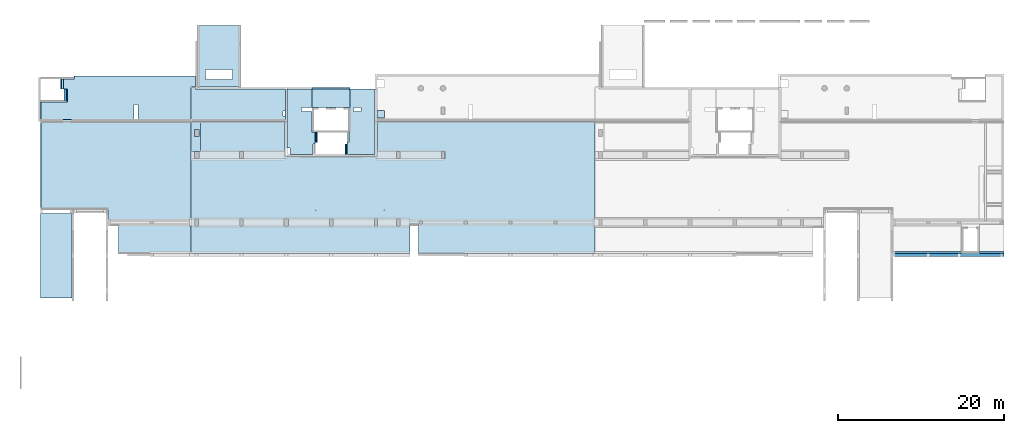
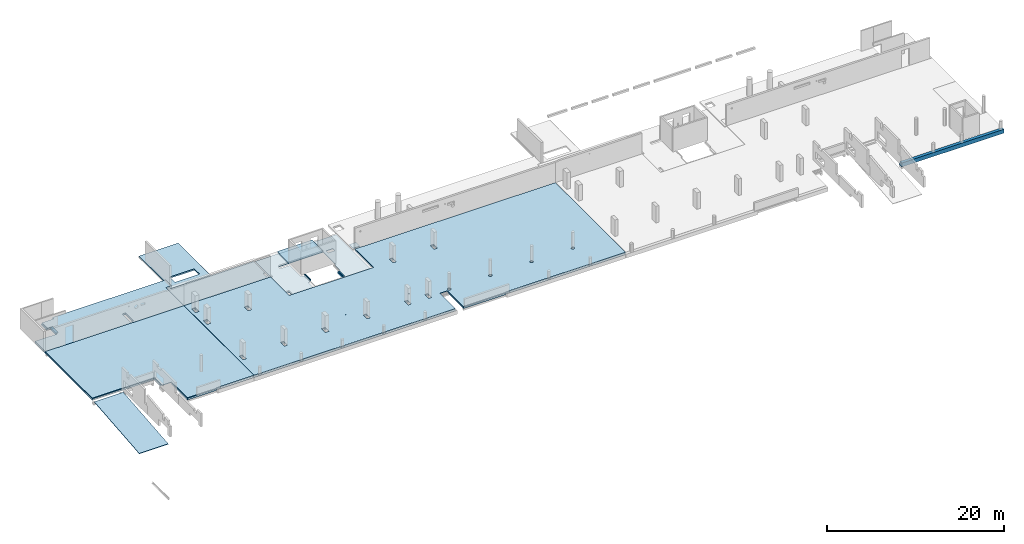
# One storey, part 4 of 10: 22 slabs, 1 beam, 26 openings.
"""IFC2X3 building model written with IfcOpenShell, lengths in millimetres."""

from ifc_helpers import new_model, entity, si_unit, converted_unit, derived_unit, direction, frame, frame_2d, origin, origin_2d_with_axis, place, context, subcontext, project, spatial, polyline, rectangle, circle, outline, extrude, clip, halfspace, faceted_brep, material, layer, layer_set, layer_usage, type_object, element, save


model = new_model("IFC2X3")

# Units and contexts
model_context = context("Model", 3, precision=0.01, world=origin(), true_north=direction((6.12303176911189e-17, 1.0)))
body_context = subcontext(model_context, "Body", "Model", "MODEL_VIEW")
ifc_project = project(units=[si_unit("LENGTHUNIT", "METRE", prefix="MILLI"), si_unit("AREAUNIT", "SQUARE_METRE"), si_unit("VOLUMEUNIT", "CUBIC_METRE"), converted_unit("PLANEANGLEUNIT", "DEGREE", entity("IfcRatioMeasure", 0.0174532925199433), si_unit("PLANEANGLEUNIT", "RADIAN"), dimensions=[0, 0, 0, 0, 0, 0, 0]), si_unit("MASSUNIT", "GRAM", prefix="KILO"), derived_unit("MASSDENSITYUNIT", [(si_unit("MASSUNIT", "GRAM", prefix="KILO"), 1), (si_unit("LENGTHUNIT", "METRE"), -3)]), si_unit("TIMEUNIT", "SECOND"), si_unit("FREQUENCYUNIT", "HERTZ"), si_unit("THERMODYNAMICTEMPERATUREUNIT", "DEGREE_CELSIUS"), derived_unit("THERMALTRANSMITTANCEUNIT", [(si_unit("MASSUNIT", "GRAM", prefix="KILO"), 1), (si_unit("THERMODYNAMICTEMPERATUREUNIT", "KELVIN"), -1), (si_unit("TIMEUNIT", "SECOND"), -3)]), derived_unit("VOLUMETRICFLOWRATEUNIT", [(si_unit("LENGTHUNIT", "METRE"), 3), (si_unit("TIMEUNIT", "SECOND"), -1)]), si_unit("ELECTRICCURRENTUNIT", "AMPERE"), si_unit("ELECTRICVOLTAGEUNIT", "VOLT"), si_unit("POWERUNIT", "WATT"), si_unit("FORCEUNIT", "NEWTON", prefix="KILO"), si_unit("ILLUMINANCEUNIT", "LUX"), si_unit("LUMINOUSFLUXUNIT", "LUMEN"), si_unit("LUMINOUSINTENSITYUNIT", "CANDELA"), derived_unit("USERDEFINED", [(si_unit("MASSUNIT", "GRAM", prefix="KILO"), -1), (si_unit("LENGTHUNIT", "METRE"), -2), (si_unit("TIMEUNIT", "SECOND"), 3), (si_unit("LUMINOUSFLUXUNIT", "LUMEN"), 1)]), derived_unit("LINEARVELOCITYUNIT", [(si_unit("LENGTHUNIT", "METRE"), 1), (si_unit("TIMEUNIT", "SECOND"), -1)]), si_unit("PRESSUREUNIT", "PASCAL"), derived_unit("USERDEFINED", [(si_unit("LENGTHUNIT", "METRE"), -2), (si_unit("MASSUNIT", "GRAM", prefix="KILO"), 1), (si_unit("TIMEUNIT", "SECOND"), -2)])], contexts=[model_context])

# Site, building, storey
site_placement = place(None, origin())
site = spatial("IfcSite", under=ifc_project, at=site_placement, Name="Default", CompositionType="ELEMENT")
building_placement = place(site_placement, origin())
building = spatial("IfcBuilding", under=site, at=building_placement, Name="niet gebruiken", CompositionType="ELEMENT")
storey_placement = place(building_placement, frame((0.0, 0.0, 9410.0)))
storey = spatial("IfcBuildingStorey", under=building, at=storey_placement, Name="02b tweede tussenverdieping", CompositionType="ELEMENT", Elevation=9409.99999999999)

# Beam
ifc_material_1 = material(Name="NLRS_f2_beton prefab")
beam_type = type_object("IfcBeamType", Name="NLRS_28.11_SF_WPB_prefabbeton balk enkele sponning_gen:600x540/200x200", PredefinedType="BEAM")
beam_placement = place(storey_placement, frame((110845.0, 24776.0, -530.0)))
element("IfcBeam", 1, at=beam_placement, inside=storey, type_object=beam_type, material=ifc_material_1, Name="NLRS_28.11_SF_WPB_prefabbeton balk enkele sponning_gen:600x540/200x200", ObjectType="NLRS_28.11_SF_WPB_prefabbeton balk enkele sponning_gen:600x540/200x200", context=body_context, shape_type="Brep", body=[
    faceted_brep([(0.0, 600.0, 0.0), (0.0, 0.0, 0.0), (0.0, 0.0, 540.0), (0.0, 400.0, 540.0), (0.0, 400.0, 530.0), (0.0, 400.0, 460.0), (0.0, 400.0, 200.0), (0.0, 600.0, 200.0), (13355.0, 600.0, 200.0), (13355.0, 400.0, 200.0), (13355.0, 400.0, 460.0), (13355.0, 400.0, 530.0), (13355.0, 400.0, 540.0), (13355.0, 0.0, 540.0), (13355.0, 0.0, 0.0), (13355.0, 600.0, 0.0), (8210.0, 400.0, 200.0), (10400.0, 400.0, 200.0), (10400.0, 400.0, 0.0), (8210.0, 400.0, 0.0), (8210.0, 600.0, 200.0), (8210.0, 600.0, 0.0), (10400.0, 600.0, 0.0), (10400.0, 600.0, 200.0)], [[[0, 1, 2, 3, 4, 5, 6, 7]], [[8, 9, 10, 11, 12, 13, 14, 15]], [[3, 2, 13, 12]], [[16, 6, 5, 4, 3, 12, 11, 10, 9, 17, 18, 19]], [[7, 6, 16, 20]], [[0, 7, 20, 21]], [[1, 0, 21, 19, 18, 22, 15, 14]], [[2, 1, 14, 13]], [[16, 19, 21, 20]], [[18, 17, 23, 22]], [[9, 8, 23, 17]], [[8, 15, 22, 23]]]),
])

# Slabs
ifc_layer_1 = layer(ifc_material_1, 255.0)
ifc_layer_set_1 = layer_set([ifc_layer_1], Name="Floor:NLRS_23.21_FL_kanaalplaat d=255_gen")
ifc_layer_usage_1 = layer_usage(ifc_layer_set_1, "AXIS3", "POSITIVE", 0.0)
slab_1_placement = place(storey_placement, origin())
element("IfcSlab", 2, at=slab_1_placement, inside=storey, material=ifc_layer_usage_1, Name="Floor:NLRS_23.21_FL_kanaalplaat d=255_gen", ObjectType="Floor:NLRS_23.21_FL_kanaalplaat d=255_gen", PredefinedType="FLOOR", context=body_context, shape_type="SweptSolid", body=[
    extrude(outline(polyline([(-2024.99314767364, -11022.4999999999), (8560.00685232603, -11022.4999999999), (8560.00685232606, 7082.49999999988), (-3155.02055697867, 7082.49999999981), (-3155.02055697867, 6862.4999999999), (-3379.99314767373, 6862.4999999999), (-3379.99314767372, -2922.49999999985), (-2024.99314767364, -2922.49999999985), (-2024.99314767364, -11022.4999999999)])), frame((19267.4999999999, 32480.993147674, -70.0), z_axis=(0.0, 0.0, -1.0), x_axis=(0.0, 1.0, 0.0)), (0.0, 0.0, 1.0), 255.000000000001),
])
ifc_layer_usage_2 = layer_usage(ifc_layer_set_1, "AXIS3", "POSITIVE", 0.0)
slab_2_placement = place(storey_placement, origin())
element("IfcSlab", 3, at=slab_2_placement, inside=storey, material=ifc_layer_usage_2, Name="Floor:NLRS_23.21_FL_kanaalplaat d=255_gen", ObjectType="Floor:NLRS_23.21_FL_kanaalplaat d=255_gen", PredefinedType="FLOOR", context=body_context, shape_type="SweptSolid", body=[
    extrude(rectangle(XDim=3240.00000000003, YDim=26329.9999999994, at=frame_2d((2.1600499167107e-12, 0.0), x_axis=(1.0, 0.0))), frame((39535.0, 26816.0, -70.0), z_axis=(0.0, 0.0, -1.0), x_axis=(0.0, 1.0, 0.0)), (0.0, 0.0, 1.0), 255.000000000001),
])
ifc_layer_usage_3 = layer_usage(ifc_layer_set_1, "AXIS3", "POSITIVE", 0.0)
slab_3_placement = place(storey_placement, frame((26370.0, 29101.0, -325.0)))
element("IfcSlab", 4, at=slab_3_placement, inside=storey, material=ifc_layer_usage_3, Name="Floor:NLRS_23.21_FL_kanaalplaat d=255_gen", ObjectType="Floor:NLRS_23.21_FL_kanaalplaat d=255_gen", PredefinedType="FLOOR", context=body_context, shape_type="SweptSolid", body=[
    extrude(rectangle(XDim=3614.99999999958, YDim=10199.999999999, at=frame_2d((18105.0, 4162.49999999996), x_axis=(0.0, -1.0))), frame((24290.0, 5970.0, 255.0), z_axis=(0.0, 0.0, -1.0), x_axis=(-1.0, 0.0, 0.0)), (0.0, 0.0, 1.0), 255.000000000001),
])

# Slab, openings
slab_4_placement = place(storey_placement, frame((26370.0, 29101.0, -325.0)))
slab_4 = element("IfcSlab", 5, at=slab_4_placement, inside=storey, material=ifc_layer_usage_3, Name="Floor:NLRS_23.21_FL_kanaalplaat d=255_gen:2", ObjectType="Floor:NLRS_23.21_FL_kanaalplaat d=255_gen", PredefinedType="FLOOR", context=body_context, shape_type="SweptSolid", body=[
    extrude(outline(polyline([(-2000.0, -5745.02740930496), (24290.0, -5745.02740930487), (24290.0, 1465.0), (12985.0, 1465.0), (12985.0, 1765.0), (1935.0, 1765.0), (1935.0, 1465.0), (-6260.0, 1465.0), (-6260.0, 2355.0), (1915.0, 2355.0), (1915.0, 5970.0), (-24290.0, 5970.0), (-24290.0, -5745.0), (-24070.0, -5745.0), (-24070.0, -5970.0), (-2000.0, -5970.0), (-2000.0, -5745.02740930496)])), frame((24290.0, 5970.0, 255.0), z_axis=(0.0, 0.0, -1.0), x_axis=(-1.0, 0.0, 0.0)), (0.0, 0.0, 1.0), 255.000000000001),
])
opening_1_placement = place(storey_placement, frame((26370.0, 29101.0, -325.0)))
element("IfcOpeningElement", 6, at=opening_1_placement, cuts=slab_4, ObjectType="Opening", context=body_context, shape_type="SweptSolid", body=[
    extrude(circle(Radius=37.5, at=frame_2d((1060.0, -4715.0), x_axis=(1.0, 0.0))), frame((24290.0, 5970.0, 255.0), z_axis=(0.0, 0.0, -1.0), x_axis=(-1.0, 0.0, 0.0)), (0.0, 0.0, 1.0), 255.000000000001),
])
opening_2_placement = place(storey_placement, frame((26370.0, 29101.0, -325.0)))
element("IfcOpeningElement", 7, at=opening_2_placement, cuts=slab_4, ObjectType="Opening", context=body_context, shape_type="SweptSolid", body=[
    extrude(circle(Radius=37.5, at=frame_2d((9310.0, -4715.0), x_axis=(1.0, 0.0))), frame((24290.0, 5970.0, 255.0), z_axis=(0.0, 0.0, -1.0), x_axis=(-1.0, 0.0, 0.0)), (0.0, 0.0, 1.0), 255.000000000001),
])

ifc_material_2 = material(Name="NLRS_f2_beton ihwg")
ifc_layer_2 = layer(ifc_material_2, 70.0)
ifc_layer_set_2 = layer_set([ifc_layer_2], Name="Floor:NLRS_23.21_FL_druklaag d=70 - gevlinderd en ingestrooid_gen")
ifc_layer_usage_4 = layer_usage(ifc_layer_set_2, "AXIS3", "POSITIVE", 0.0)
slab_5_placement = place(storey_placement, frame((26370.0, 25101.0, -70.0)))
slab_5 = element("IfcSlab", 8, at=slab_5_placement, inside=storey, material=ifc_layer_usage_4, Name="Floor:NLRS_23.21_FL_druklaag d=70 - gevlinderd en ingestrooid_gen", ObjectType="Floor:NLRS_23.21_FL_druklaag d=70 - gevlinderd en ingestrooid_gen", PredefinedType="FLOOR", context=body_context, shape_type="SweptSolid", body=[
    extrude(outline(polyline([(24290.0, -7905.0), (24290.0, 7980.0), (12985.0, 7980.0), (12985.0, 3775.0), (1935.00015089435, 3775.0), (1935.00015089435, 7980.0), (-24290.0, 7980.0), (-24290.0, -7905.0), (-8540.0, -7905.0), (-8540.0, -7980.0), (-3030.0, -7980.0), (-3030.0, -4400.0), (-2040.0, -4400.0), (-2040.0, -7905.0), (24290.0, -7905.0)])), frame((24290.0, 7980.0, 70.0), z_axis=(0.0, 0.0, -1.0), x_axis=(-1.0, 0.0, 0.0)), (0.0, 0.0, 1.0), 70.0000000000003),
])
opening_3_placement = place(storey_placement, frame((26370.0, 25101.0, -70.0)))
element("IfcOpeningElement", 9, at=opening_3_placement, cuts=slab_5, ObjectType="Opening", context=body_context, shape_type="SweptSolid", body=[
    extrude(circle(Radius=37.5, at=frame_2d((1060.0, -2725.0), x_axis=(1.0, 0.0))), frame((24290.0, 7980.0, 70.0), z_axis=(0.0, 0.0, -1.0), x_axis=(-1.0, 0.0, 0.0)), (0.0, 0.0, 1.0), 70.0000000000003),
])
opening_4_placement = place(storey_placement, frame((26370.0, 25101.0, -70.0)))
element("IfcOpeningElement", 10, at=opening_4_placement, cuts=slab_5, ObjectType="Opening", context=body_context, shape_type="SweptSolid", body=[
    extrude(circle(Radius=37.5, at=frame_2d((9310.0, -2725.0), x_axis=(1.0, 0.0))), frame((24290.0, 7980.0, 70.0), z_axis=(0.0, 0.0, -1.0), x_axis=(-1.0, 0.0, 0.0)), (0.0, 0.0, 1.0), 70.0000000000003),
])
opening_5_placement = place(slab_5_placement, frame((655.0, 14555.0, 70.0)))
element("IfcOpeningElement", 11, at=opening_5_placement, cuts=slab_5, Name="Floor:NLRS_23.21_FL_druklaag d=70 - gevlinderd en ingestrooid_gen:2", ObjectType="Opening", context=body_context, shape_type="SweptSolid", body=[
    extrude(rectangle(XDim=849.999999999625, YDim=499.999999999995, at=origin_2d_with_axis()), frame((0.0, 0.0, 0.0), z_axis=(0.0, 0.0, -1.0), x_axis=(0.0, -1.0, 0.0)), (0.0, 0.0, 1.0), 70.0000000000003),
])
opening_6_placement = place(slab_5_placement, frame((655.0, 11880.0, 70.0)))
element("IfcOpeningElement", 12, at=opening_6_placement, cuts=slab_5, Name="Floor:NLRS_23.21_FL_druklaag d=70 - gevlinderd en ingestrooid_gen:3", ObjectType="Opening", context=body_context, shape_type="SweptSolid", body=[
    extrude(rectangle(XDim=850.000000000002, YDim=499.999999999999, at=origin_2d_with_axis()), frame((0.0, 0.0, 0.0), z_axis=(0.0, 0.0, -1.0), x_axis=(0.0, -1.0, 0.0)), (0.0, 0.0, 1.0), 70.0000000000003),
])
opening_7_placement = place(slab_5_placement, frame((6030.0, 11880.0, 70.0)))
element("IfcOpeningElement", 13, at=opening_7_placement, cuts=slab_5, Name="Floor:NLRS_23.21_FL_druklaag d=70 - gevlinderd en ingestrooid_gen:4", ObjectType="Opening", context=body_context, shape_type="SweptSolid", body=[
    extrude(rectangle(XDim=850.000000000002, YDim=499.999999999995, at=origin_2d_with_axis()), frame((0.0, 0.0, 0.0), z_axis=(0.0, 0.0, -1.0), x_axis=(0.0, -1.0, 0.0)), (0.0, 0.0, 1.0), 70.0000000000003),
])
opening_8_placement = place(slab_5_placement, frame((24905.0, 11880.0, 70.0)))
element("IfcOpeningElement", 14, at=opening_8_placement, cuts=slab_5, Name="Floor:NLRS_23.21_FL_druklaag d=70 - gevlinderd en ingestrooid_gen:5", ObjectType="Opening", context=body_context, shape_type="SweptSolid", body=[
    extrude(rectangle(XDim=850.000000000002, YDim=399.999999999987, at=origin_2d_with_axis()), frame((0.0, 0.0, 0.0), z_axis=(0.0, 0.0, -1.0), x_axis=(0.0, -1.0, 0.0)), (0.0, 0.0, 1.0), 70.0000000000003),
])
opening_9_placement = place(slab_5_placement, frame((30305.0, 11880.0, 70.0)))
element("IfcOpeningElement", 15, at=opening_9_placement, cuts=slab_5, Name="Floor:NLRS_23.21_FL_druklaag d=70 - gevlinderd en ingestrooid_gen:6", ObjectType="Opening", context=body_context, shape_type="SweptSolid", body=[
    extrude(rectangle(XDim=850.000000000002, YDim=399.999999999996, at=origin_2d_with_axis()), frame((0.0, 0.0, 0.0), z_axis=(0.0, 0.0, -1.0), x_axis=(0.0, -1.0, 0.0)), (0.0, 0.0, 1.0), 70.0000000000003),
])
opening_10_placement = place(slab_5_placement, frame((24905.9597388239, 3780.0, 70.0)))
element("IfcOpeningElement", 16, at=opening_10_placement, cuts=slab_5, Name="Floor:NLRS_23.21_FL_druklaag d=70 - gevlinderd en ingestrooid_gen:7", ObjectType="Opening", context=body_context, shape_type="SweptSolid", body=[
    extrude(rectangle(XDim=850.000000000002, YDim=401.919477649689, at=origin_2d_with_axis()), frame((0.0, 0.0, 0.0), z_axis=(0.0, 0.0, -1.0), x_axis=(0.0, -1.0, 0.0)), (0.0, 0.0, 1.0), 70.0000000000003),
])
opening_11_placement = place(slab_5_placement, frame((22230.0, 3780.0, 70.0)))
element("IfcOpeningElement", 17, at=opening_11_placement, cuts=slab_5, Name="Floor:NLRS_23.21_FL_druklaag d=70 - gevlinderd en ingestrooid_gen:8", ObjectType="Opening", context=body_context, shape_type="SweptSolid", body=[
    extrude(rectangle(XDim=850.000000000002, YDim=399.999999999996, at=origin_2d_with_axis()), frame((0.0, 0.0, 0.0), z_axis=(0.0, 0.0, -1.0), x_axis=(0.0, -1.0, 0.0)), (0.0, 0.0, 1.0), 70.0000000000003),
])
opening_12_placement = place(slab_5_placement, frame((16830.0, 3780.0, 70.0)))
element("IfcOpeningElement", 18, at=opening_12_placement, cuts=slab_5, Name="Floor:NLRS_23.21_FL_druklaag d=70 - gevlinderd en ingestrooid_gen:9", ObjectType="Opening", context=body_context, shape_type="SweptSolid", body=[
    extrude(rectangle(XDim=849.999999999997, YDim=399.999999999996, at=origin_2d_with_axis()), frame((0.0, 0.0, 0.0), z_axis=(0.0, 0.0, -1.0), x_axis=(0.0, -1.0, 0.0)), (0.0, 0.0, 1.0), 70.0000000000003),
])
opening_13_placement = place(slab_5_placement, frame((11430.0, 3780.0, 70.0)))
element("IfcOpeningElement", 19, at=opening_13_placement, cuts=slab_5, Name="Floor:NLRS_23.21_FL_druklaag d=70 - gevlinderd en ingestrooid_gen:10", ObjectType="Opening", context=body_context, shape_type="SweptSolid", body=[
    extrude(rectangle(XDim=850.000000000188, YDim=499.999999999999, at=origin_2d_with_axis()), frame((0.0, 0.0, 0.0), z_axis=(0.0, 0.0, -1.0), x_axis=(0.0, -1.0, 0.0)), (0.0, 0.0, 1.0), 70.0000000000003),
])
opening_14_placement = place(slab_5_placement, frame((6030.0, 3780.0, 70.0)))
element("IfcOpeningElement", 20, at=opening_14_placement, cuts=slab_5, Name="Floor:NLRS_23.21_FL_druklaag d=70 - gevlinderd en ingestrooid_gen:11", ObjectType="Opening", context=body_context, shape_type="SweptSolid", body=[
    extrude(rectangle(XDim=850.000000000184, YDim=400.0, at=origin_2d_with_axis()), frame((0.0, 0.0, 0.0), z_axis=(0.0, 0.0, -1.0), x_axis=(0.0, -1.0, 0.0)), (0.0, 0.0, 1.0), 70.0000000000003),
])
opening_15_placement = place(slab_5_placement, frame((655.0, 3780.0, 70.0)))
element("IfcOpeningElement", 21, at=opening_15_placement, cuts=slab_5, Name="Floor:NLRS_23.21_FL_druklaag d=70 - gevlinderd en ingestrooid_gen:12", ObjectType="Opening", context=body_context, shape_type="SweptSolid", body=[
    extrude(rectangle(XDim=850.000000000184, YDim=400.0, at=origin_2d_with_axis()), frame((0.0, 0.0, 0.0), z_axis=(0.0, 0.0, 1.0), x_axis=(0.0, -1.0, 0.0)), (0.0, 0.0, -1.0), 70.0000000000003),
])
opening_16_placement = place(slab_5_placement, frame((27630.0, 3780.0, 70.0)))
element("IfcOpeningElement", 22, at=opening_16_placement, cuts=slab_5, Name="Floor:NLRS_23.21_FL_druklaag d=70 - gevlinderd en ingestrooid_gen:13", ObjectType="Opening", context=body_context, shape_type="SweptSolid", body=[
    extrude(circle(Radius=200.0, at=origin_2d_with_axis()), frame((0.0, 0.0, 0.0), z_axis=(0.0, 0.0, -1.0), x_axis=(1.0, 0.0, 0.0)), (0.0, 0.0, 1.0), 70.0000000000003),
])
opening_17_placement = place(slab_5_placement, frame((33030.0, 3780.0, 70.0)))
element("IfcOpeningElement", 23, at=opening_17_placement, cuts=slab_5, Name="Floor:NLRS_23.21_FL_druklaag d=70 - gevlinderd en ingestrooid_gen:14", ObjectType="Opening", context=body_context, shape_type="SweptSolid", body=[
    extrude(circle(Radius=200.0, at=origin_2d_with_axis()), frame((0.0, 0.0, 0.0), z_axis=(0.0, 0.0, -1.0), x_axis=(1.0, 0.0, 0.0)), (0.0, 0.0, 1.0), 70.0000000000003),
])
opening_18_placement = place(slab_5_placement, frame((38430.0, 3780.0, 70.0)))
element("IfcOpeningElement", 24, at=opening_18_placement, cuts=slab_5, Name="Floor:NLRS_23.21_FL_druklaag d=70 - gevlinderd en ingestrooid_gen:15", ObjectType="Opening", context=body_context, shape_type="SweptSolid", body=[
    extrude(circle(Radius=200.0, at=origin_2d_with_axis()), frame((0.0, 0.0, 0.0), z_axis=(0.0, 0.0, -1.0), x_axis=(1.0, 0.0, 0.0)), (0.0, 0.0, 1.0), 70.0000000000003),
])
opening_19_placement = place(slab_5_placement, frame((43830.0, 3780.0, 70.0)))
element("IfcOpeningElement", 25, at=opening_19_placement, cuts=slab_5, Name="Floor:NLRS_23.21_FL_druklaag d=70 - gevlinderd en ingestrooid_gen:16", ObjectType="Opening", context=body_context, shape_type="SweptSolid", body=[
    extrude(circle(Radius=200.0, at=origin_2d_with_axis()), frame((0.0, 0.0, 0.0), z_axis=(0.0, 0.0, -1.0), x_axis=(1.0, 0.0, 0.0)), (0.0, 0.0, 1.0), 70.0000000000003),
])

# Slabs
ifc_layer_usage_5 = layer_usage(ifc_layer_set_2, "AXIS3", "POSITIVE", 0.0)
slab_6_placement = place(storey_placement, origin())
element("IfcSlab", 26, at=slab_6_placement, inside=storey, material=ifc_layer_usage_5, Name="Floor:NLRS_23.21_FL_druklaag d=70 - gevlinderd en ingestrooid_gen", ObjectType="Floor:NLRS_23.21_FL_druklaag d=70 - gevlinderd en ingestrooid_gen", PredefinedType="FLOOR", context=body_context, shape_type="SweptSolid", body=[
    extrude(outline(polyline([(337.0, -9754.0), (10972.0, -9754.0), (10972.0, 8371.0), (-4913.0, 8371.0), (-4913.0, 3421.0), (-4988.0, 3421.0), (-4988.0, -384.0), (-1408.0, -384.0), (-1408.0, -1654.0), (337.0, -1654.0), (337.0, -9754.0)])), frame((17979.0, 30089.0, 0.0), z_axis=(0.0, 0.0, -1.0), x_axis=(0.0, 1.0, 0.0)), (0.0, 0.0, 1.0), 70.0000000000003),
])
ifc_layer_usage_6 = layer_usage(ifc_layer_set_1, "AXIS3", "POSITIVE", 0.0)
slab_7_placement = place(storey_placement, origin())
element("IfcSlab", 27, at=slab_7_placement, inside=storey, material=ifc_layer_usage_6, Name="Floor:NLRS_23.21_FL_kanaalplaat d=255_gen", ObjectType="Floor:NLRS_23.21_FL_kanaalplaat d=255_gen", PredefinedType="FLOOR", context=body_context, shape_type="SweptSolid", body=[
    extrude(outline(polyline([(-1732.49999999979, -11947.4999999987), (1807.49999999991, -11947.4999999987), (1807.49999999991, 9092.50000000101), (1582.49999999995, 9092.50000000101), (1582.49999999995, 9312.50000000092), (-1657.50000000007, 9312.50000000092), (-1657.50000000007, -6457.50000000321), (-1732.49999999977, -6457.50000000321), (-1732.49999999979, -11947.4999999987)])), frame((65637.4999999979, 26853.5, -70.0), z_axis=(0.0, 0.0, -1.0), x_axis=(0.0, 1.0, 0.0)), (0.0, 0.0, 1.0), 255.000000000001),
])
ifc_layer_usage_7 = layer_usage(ifc_layer_set_1, "AXIS3", "POSITIVE", 0.0)
slab_8_placement = place(storey_placement, origin())
element("IfcSlab", 28, at=slab_8_placement, inside=storey, material=ifc_layer_usage_7, Name="Floor:NLRS_23.21_FL_kanaalplaat d=255_gen", ObjectType="Floor:NLRS_23.21_FL_kanaalplaat d=255_gen", PredefinedType="FLOOR", context=body_context, shape_type="SweptSolid", body=[
    extrude(outline(polyline([(-1732.49999999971, -5268.75000000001), (1807.49999999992, -5268.75000000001), (1807.49999999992, 3266.25000000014), (1582.4999999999, 3266.25000000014), (1582.4999999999, 3486.25000000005), (-1657.50000000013, 3486.25000000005), (-1657.50000000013, -1483.75000000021), (-1732.49999999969, -1483.75000000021), (-1732.49999999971, -5268.75000000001)])), frame((22863.7499999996, 26853.5000000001, -70.0), z_axis=(0.0, 0.0, -1.0), x_axis=(0.0, 1.0, 0.0)), (0.0, 0.0, 1.0), 255.000000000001),
])

# Slab, openings
ifc_layer_3 = layer(ifc_material_2, 250.0)
ifc_layer_set_3 = layer_set([ifc_layer_3], Name="Floor:NLRS_23.21_FL_breedplaat d=70/250_schil apart - gevlinderd_gen")
ifc_layer_usage_8 = layer_usage(ifc_layer_set_3, "AXIS3", "POSITIVE", 0.0)
slab_9_placement = place(storey_placement, frame((8225.0, 41061.0, -250.0)))
slab_9 = element("IfcSlab", 29, at=slab_9_placement, inside=storey, material=ifc_layer_usage_8, Name="Floor:NLRS_23.21_FL_breedplaat d=70/250_schil apart - gevlinderd_gen", ObjectType="Floor:NLRS_23.21_FL_breedplaat d=70/250_schil apart - gevlinderd_gen", PredefinedType="FLOOR", context=body_context, shape_type="SweptSolid", body=[
    extrude(outline(polyline([(9437.49999999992, -382.499999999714), (6512.50000000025, -382.499999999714), (6512.50000000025, 1147.49999999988), (7052.50000000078, 1147.49999999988), (7052.50000000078, 2397.49999999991), (5387.5000950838, 2397.49999999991), (5387.5000950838, 2717.49999999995), (-9437.49999999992, 2717.49999999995), (-9437.49999999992, 1397.49999999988), (-8687.49999999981, 1397.49999999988), (-8687.49999999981, -2717.49999999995), (9437.49999999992, -2717.49999999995), (9437.49999999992, -382.499999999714)])), frame((9437.49999999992, 2717.49999999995, 250.0), z_axis=(0.0, 0.0, -1.0), x_axis=(-1.0, 0.0, 0.0)), (0.0, 0.0, 1.0), 249.999999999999),
])
opening_20_placement = place(slab_9_placement, origin())
element("IfcOpeningElement", 30, at=opening_20_placement, cuts=slab_9, ObjectType="Opening", context=body_context, shape_type="SweptSolid", body=[
    extrude(rectangle(XDim=1250.0, YDim=110.000000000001, at=origin_2d_with_axis()), frame((2440.0, 4490.0, 120.0), z_axis=(0.0, 0.0, 1.0), x_axis=(0.0, -1.0, 0.0)), (0.0, 0.0, 1.0), 130.0),
])
opening_21_placement = place(slab_9_placement, origin())
element("IfcOpeningElement", 31, at=opening_21_placement, cuts=slab_9, ObjectType="Opening", context=body_context, shape_type="SweptSolid", body=[
    extrude(rectangle(XDim=110.000000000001, YDim=1270.00000000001, at=origin_2d_with_axis()), frame((2980.0, 3150.0, 120.0), z_axis=(0.0, 0.0, 1.0), x_axis=(-1.0, 0.0, 0.0)), (0.0, 0.0, 1.0), 130.0),
])
opening_22_placement = place(slab_9_placement, origin())
element("IfcOpeningElement", 32, at=opening_22_placement, cuts=slab_9, ObjectType="Opening", context=body_context, shape_type="SweptSolid", body=[
    extrude(rectangle(XDim=1800.00000000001, YDim=450.000000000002, at=origin_2d_with_axis()), frame((11470.0, 1150.0, 0.0), z_axis=(0.0, 0.0, 1.0), x_axis=(0.0, -1.0, 0.0)), (0.0, 0.0, 1.0), 249.999999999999),
])

# Slabs
ifc_layer_4 = layer(ifc_material_2, 250.0)
ifc_layer_set_4 = layer_set([ifc_layer_4], Name="Floor:NLRS_23.21_FL_breedplaat d=70/250_schil apart_gen")
ifc_layer_usage_9 = layer_usage(ifc_layer_set_4, "AXIS3", "POSITIVE", 0.0)
slab_10_placement = place(storey_placement, frame((40924.9998491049, 42696.0, -340.0)))
element("IfcSlab", 33, at=slab_10_placement, inside=storey, material=ifc_layer_usage_9, Name="Floor:NLRS_23.21_FL_breedplaat d=70/250_schil apart_gen", ObjectType="Floor:NLRS_23.21_FL_breedplaat d=70/250_schil apart_gen", PredefinedType="FLOOR", context=body_context, shape_type="SweptSolid", body=[
    extrude(rectangle(XDim=4549.99999999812, YDim=2459.99999999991, at=frame_2d((0.0, 0.0), x_axis=(-1.0, 0.0))), frame((2275.0, 1230.0, 250.0), z_axis=(0.0, 0.0, -1.0), x_axis=(-1.0, 0.0, 0.0)), (0.0, 0.0, 1.0), 250.000000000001),
])
ifc_layer_5 = layer(ifc_material_2, 200.0)
ifc_layer_6 = layer(ifc_material_1, 50.0)
ifc_layer_set_5 = layer_set([ifc_layer_5, ifc_layer_6], Name="Floor:NLRS_23.21_FL_breedplaat d=50/250_gen")
ifc_layer_usage_10 = layer_usage(ifc_layer_set_5, "AXIS3", "POSITIVE", 0.0)
slab_11_placement = place(storey_placement, origin())
element("IfcSlab", 34, at=slab_11_placement, inside=storey, material=ifc_layer_usage_10, Name="Floor:NLRS_23.21_FL_breedplaat d=50/250_gen", ObjectType="Floor:NLRS_23.21_FL_breedplaat d=50/250_gen", PredefinedType="FLOOR", context=body_context, shape_type="SweptSolid", body=[
    extrude(rectangle(XDim=1349.99999999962, YDim=300.000000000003, at=frame_2d((-4.32009983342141e-12, -1.08002495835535e-12), x_axis=(1.0, 0.0))), frame((11210.0, 44251.0, 0.0), z_axis=(0.0, 0.0, -1.0), x_axis=(0.0, 1.0, 0.0)), (0.0, 0.0, 1.0), 249.999999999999),
])

# Slab, opening
ifc_layer_7 = layer(ifc_material_1, 70.0)
ifc_layer_set_6 = layer_set([ifc_layer_7], Name="Floor:NLRS_23.21_FL_breedplaatschil d=70_gen")
ifc_layer_usage_11 = layer_usage(ifc_layer_set_6, "AXIS3", "POSITIVE", 0.0)
slab_12_placement = place(storey_placement, frame((26370.0, 41291.0, -250.0)))
slab_12 = element("IfcSlab", 35, at=slab_12_placement, inside=storey, material=ifc_layer_usage_11, Name="Floor:NLRS_23.21_FL_breedplaatschil d=70_gen", ObjectType="Floor:NLRS_23.21_FL_breedplaatschil d=70_gen", PredefinedType="FLOOR", context=body_context, shape_type="SweptSolid", body=[
    extrude(outline(polyline([(5662.49999999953, 1932.49999999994), (5162.49999999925, 1932.49999999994), (5162.49999999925, 1702.49999999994), (-5662.49999999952, 1702.49999999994), (-5662.49999999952, -1932.49999999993), (5662.49999999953, -1932.49999999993), (5662.49999999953, 1932.49999999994)])), frame((5662.49999999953, 1932.49999999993, 70.0), z_axis=(0.0, 0.0, -1.0), x_axis=(-1.0, 0.0, 0.0)), (0.0, 0.0, 1.0), 70.0000000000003),
])
opening_23_placement = place(slab_12_placement, origin())
element("IfcOpeningElement", 36, at=opening_23_placement, cuts=slab_12, ObjectType="Opening", context=body_context, shape_type="SweptSolid", body=[
    extrude(rectangle(XDim=260.000000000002, YDim=614.999999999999, at=origin_2d_with_axis()), frame((11174.9998150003, 720.100191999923, 0.0), z_axis=(0.0, 0.0, 1.0), x_axis=(-1.0, 0.0, 0.0)), (0.0, 0.0, 1.0), 249.999999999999),
])

# Slab
ifc_layer_usage_12 = layer_usage(ifc_layer_set_6, "AXIS3", "POSITIVE", 0.0)
slab_13_placement = place(storey_placement, frame((37905.0, 37086.0, -340.0)))
element("IfcSlab", 37, at=slab_13_placement, inside=storey, material=ifc_layer_usage_12, Name="Floor:NLRS_23.21_FL_breedplaatschil d=70_gen", ObjectType="Floor:NLRS_23.21_FL_breedplaatschil d=70_gen", PredefinedType="FLOOR", context=body_context, shape_type="SweptSolid", body=[
    extrude(outline(polyline([(2295.00015089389, 1250.0), (2295.00015089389, -1280.0), (1950.00021676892, -1280.0), (1950.00021676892, -2700.0), (2170.0, -2700.0), (2170.0, -3920.0), (4975.0, -3920.0), (4975.0, -3180.0), (5295.0, -3180.0), (5295.0, 3920.0), (2275.00015089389, 3920.0), (2275.00015089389, 1690.0), (3572.50015089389, 1690.0), (3572.50015089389, 1250.0), (2295.00015089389, 1250.0)])), frame((5295.0, 3920.0, 70.0), z_axis=(0.0, 0.0, -1.0), x_axis=(-1.0, 0.0, 0.0)), (0.0, 0.0, 1.0), 70.0000000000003),
])

# Slab, opening
slab_14_placement = place(storey_placement, frame((37905.0, 37086.0, -340.0)))
slab_14 = element("IfcSlab", 38, at=slab_14_placement, inside=storey, material=ifc_layer_usage_12, Name="Floor:NLRS_23.21_FL_breedplaatschil d=70_gen:2", ObjectType="Floor:NLRS_23.21_FL_breedplaatschil d=70_gen", PredefinedType="FLOOR", context=body_context, shape_type="SweptSolid", body=[
    extrude(outline(polyline([(-2274.99984910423, 1690.0), (-2274.99984910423, 3920.0), (-5295.0, 3920.0), (-5295.0, -3920.0), (-1949.99978323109, -3920.0), (-1949.99978323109, -2460.0), (-2170.0, -2460.0), (-2170.0, -1280.0), (-2294.99984910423, -1280.0), (-2294.99984910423, 1690.0), (-2274.99984910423, 1690.0)])), frame((5295.0, 3920.0, 70.0), z_axis=(0.0, 0.0, -1.0), x_axis=(-1.0, 0.0, 0.0)), (0.0, 0.0, 1.0), 70.0000000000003),
])
opening_24_placement = place(slab_13_placement, frame((8425.0, 5390.0, 70.0)))
element("IfcOpeningElement", 39, at=opening_24_placement, cuts=slab_14, Name="Floor:NLRS_23.21_FL_breedplaatschil d=70_gen:2", ObjectType="Opening", context=body_context, shape_type="SweptSolid", body=[
    extrude(rectangle(XDim=900.000000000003, YDim=450.000000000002, at=origin_2d_with_axis()), frame((0.0, 0.0, 0.0), z_axis=(0.0, 0.0, -1.0), x_axis=(-1.0, 0.0, 0.0)), (0.0, 0.0, 1.0), 70.0000000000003),
])

# Slabs
ifc_layer_usage_13 = layer_usage(ifc_layer_set_6, "AXIS3", "POSITIVE", 0.0)
slab_15_placement = place(storey_placement, origin())
element("IfcSlab", 40, at=slab_15_placement, inside=storey, material=ifc_layer_usage_13, Name="Floor:NLRS_23.21_FL_breedplaatschil d=70_gen", ObjectType="Floor:NLRS_23.21_FL_breedplaatschil d=70_gen", PredefinedType="FLOOR", context=body_context, shape_type="SweptSolid", body=[
    extrude(rectangle(XDim=2209.99999999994, YDim=4549.99999999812, at=frame_2d((4.32009983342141e-12, 0.0), x_axis=(1.0, 0.0))), frame((43199.9998491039, 43821.0, -270.0), z_axis=(0.0, 0.0, -1.0), x_axis=(0.0, 1.0, 0.0)), (0.0, 0.0, 1.0), 70.0000000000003),
])
ifc_layer_usage_14 = layer_usage(ifc_layer_set_6, "AXIS3", "POSITIVE", 0.0)
slab_16_placement = place(storey_placement, origin())
element("IfcSlab", 41, at=slab_16_placement, inside=storey, material=ifc_layer_usage_14, Name="Floor:NLRS_23.21_FL_breedplaatschil d=70_gen", ObjectType="Floor:NLRS_23.21_FL_breedplaatschil d=70_gen", PredefinedType="FLOOR", context=body_context, shape_type="Clipping", body=[
    clip(clip(extrude(rectangle(XDim=10225.397486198, YDim=3799.99999999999, at=origin_2d_with_axis()), frame((10125.0, 24876.0, -705.477145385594), z_axis=(0.0, 0.0941257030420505, -0.995560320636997), x_axis=(0.0, 0.995560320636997, 0.0941257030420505)), (-0.0941257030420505, 0.0, 0.995560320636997), 70.6257190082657), halfspace(frame((10125.0, 19425.4411853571, -1220.80270604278), z_axis=(0.0, -0.0941257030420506, 0.995560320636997), x_axis=(0.0, -0.995560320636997, -0.0941257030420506)), False)), halfspace(frame((10125.0, 19425.4411853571, -1291.11486950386), z_axis=(0.0, 0.0941257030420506, -0.995560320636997), x_axis=(0.0, 0.995560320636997, 0.0941257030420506)), False)),
])
ifc_layer_usage_15 = layer_usage(ifc_layer_set_4, "AXIS3", "POSITIVE", 0.0)
slab_17_placement = place(storey_placement, origin())
element("IfcSlab", 42, at=slab_17_placement, inside=storey, material=ifc_layer_usage_15, Name="Floor:NLRS_23.21_FL_breedplaat d=70/250_schil apart_gen", ObjectType="Floor:NLRS_23.21_FL_breedplaat d=70/250_schil apart_gen", PredefinedType="FLOOR", context=body_context, shape_type="SweptSolid", body=[
    extrude(outline(polyline([(-153.333333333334, -110.0), (96.6666666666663, -110.0), (96.6666666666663, 0.0), (56.6666666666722, 0.0), (56.6666666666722, 110.0), (-153.333333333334, 110.0), (-153.333333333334, -110.0)])), frame((41410.0, 38526.0, -186.666666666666), z_axis=(0.0, 1.0, 0.0), x_axis=(0.0, 0.0, 1.0)), (0.0, 0.0, 1.0), 1220.0),
])
ifc_layer_usage_16 = layer_usage(ifc_layer_set_4, "AXIS3", "POSITIVE", 0.0)
slab_18_placement = place(storey_placement, origin())
element("IfcSlab", 43, at=slab_18_placement, inside=storey, material=ifc_layer_usage_16, Name="Floor:NLRS_23.21_FL_breedplaat d=70/250_schil apart_gen", ObjectType="Floor:NLRS_23.21_FL_breedplaat d=70/250_schil apart_gen", PredefinedType="FLOOR", context=body_context, shape_type="SweptSolid", body=[
    extrude(outline(polyline([(-153.333333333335, -110.0), (56.6666666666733, -110.0), (56.6666666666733, 0.0), (96.6666666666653, 0.0), (96.6666666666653, 110.0), (-153.333333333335, 110.0), (-153.333333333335, -110.0)])), frame((44990.0, 37106.0, -186.666666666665), z_axis=(0.0, 1.0, 0.0), x_axis=(0.0, 0.0, 1.0)), (0.0, 0.0, 1.0), 1220.0),
])
ifc_layer_usage_17 = layer_usage(ifc_layer_set_6, "AXIS3", "POSITIVE", 0.0)
slab_19_placement = place(storey_placement, origin())
element("IfcSlab", 44, at=slab_19_placement, inside=storey, material=ifc_layer_usage_17, Name="Floor:NLRS_23.21_FL_breedplaatschil d=70_gen", ObjectType="Floor:NLRS_23.21_FL_breedplaatschil d=70_gen", PredefinedType="FLOOR", context=body_context, shape_type="SweptSolid", body=[
    extrude(outline(polyline([(-2689.37499999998, -8702.4999881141), (-604.374999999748, -8702.4999881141), (-604.374999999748, -5497.49998811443), (945.624999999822, -5497.49998811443), (945.624999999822, -5967.49998811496), (2175.62499999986, -5967.49998811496), (2175.62499999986, -4652.50008319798), (2535.62499999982, -4652.50008319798), (2535.62499999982, 9922.5000118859), (1195.62499999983, 9922.5000118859), (1195.62499999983, 9402.50001188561), (-2689.37499999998, 9402.50001188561), (-2689.37499999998, 2972.50001188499), (-869.374999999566, 2972.50001188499), (-869.374999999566, 2522.50001188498), (-2689.37499999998, 2522.50001188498), (-2689.37499999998, -8702.4999881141)])), frame((16947.4999881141, 43980.3750000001, -180.0), z_axis=(0.0, 0.0, -1.0), x_axis=(0.0, 1.0, 0.0)), (0.0, 0.0, 1.0), 70.0000000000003),
])

# Slab, opening
ifc_layer_8 = layer(ifc_material_1, 200.0)
ifc_layer_set_7 = layer_set([ifc_layer_8], Name="Floor:NLRS_23.21_FL_kanaalplaat d=200_gen")
ifc_layer_usage_18 = layer_usage(ifc_layer_set_7, "AXIS3", "POSITIVE", 0.0)
slab_20_placement = place(storey_placement, frame((27135.0, 45176.0, -610.0)))
slab_20 = element("IfcSlab", 45, at=slab_20_placement, inside=storey, material=ifc_layer_usage_18, Name="Floor:NLRS_23.21_FL_kanaalplaat d=200_gen", ObjectType="Floor:NLRS_23.21_FL_kanaalplaat d=200_gen", PredefinedType="FLOOR", context=body_context, shape_type="SweptSolid", body=[
    extrude(rectangle(XDim=7420.0000000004, YDim=5130.00000000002, at=frame_2d((0.0, 0.0), x_axis=(0.0, -1.0))), frame((2565.0, 3710.0, 200.0), z_axis=(0.0, 0.0, -1.0), x_axis=(-1.0, 0.0, 0.0)), (0.0, 0.0, 1.0), 200.0),
])
opening_25_placement = place(slab_20_placement, frame((2565.0, 1500.0, 200.0)))
element("IfcOpeningElement", 46, at=opening_25_placement, cuts=slab_20, Name="Floor:NLRS_23.21_FL_kanaalplaat d=200_gen:2", ObjectType="Opening", context=body_context, shape_type="SweptSolid", body=[
    extrude(rectangle(XDim=1200.0, YDim=3200.00000000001, at=origin_2d_with_axis()), frame((0.0, 0.0, 0.0), z_axis=(0.0, 0.0, 1.0), x_axis=(0.0, 1.0, 0.0)), (0.0, 0.0, -1.0), 200.0),
])

ifc_layer_9 = layer(ifc_material_2, 255.0)
ifc_layer_set_8 = layer_set([ifc_layer_9], Name="Floor:NLRS_23.21_FL_beton ihwg d=255_gen")
ifc_layer_usage_19 = layer_usage(ifc_layer_set_8, "AXIS3", "POSITIVE", 0.0)
slab_21_placement = place(storey_placement, frame((26370.0, 37426.0, -325.0)))
slab_21 = element("IfcSlab", 47, at=slab_21_placement, inside=storey, material=ifc_layer_usage_19, Name="Floor:NLRS_23.21_FL_beton ihwg d=255_gen", ObjectType="Floor:NLRS_23.21_FL_beton ihwg d=255_gen", PredefinedType="FLOOR", context=body_context, shape_type="SweptSolid", body=[
    extrude(rectangle(XDim=3634.99999999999, YDim=1085.00000000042, at=frame_2d((0.0, 0.0), x_axis=(0.0, -1.0))), frame((542.500000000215, 1817.49999999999, 255.0), z_axis=(0.0, 0.0, -1.0), x_axis=(-1.0, 0.0, 0.0)), (0.0, 0.0, 1.0), 255.000000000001),
])
opening_26_placement = place(slab_21_placement, frame((655.0, 2230.0, 255.0)))
element("IfcOpeningElement", 48, at=opening_26_placement, cuts=slab_21, Name="Floor:NLRS_23.21_FL_beton ihwg d=255_gen:2", ObjectType="Opening", context=body_context, shape_type="SweptSolid", body=[
    extrude(rectangle(XDim=849.999999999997, YDim=499.999999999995, at=origin_2d_with_axis()), frame((0.0, 0.0, 0.0), z_axis=(0.0, 0.0, -1.0), x_axis=(0.0, -1.0, 0.0)), (0.0, 0.0, 1.0), 255.000000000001),
])

# Slab
ifc_layer_usage_20 = layer_usage(ifc_layer_set_6, "AXIS3", "POSITIVE", 0.0)
slab_22_placement = place(storey_placement, origin())
element("IfcSlab", 49, at=slab_22_placement, inside=storey, material=ifc_layer_usage_20, Name="Floor:NLRS_23.21_FL_breedplaatschil d=70_gen", ObjectType="Floor:NLRS_23.21_FL_breedplaatschil d=70_gen", PredefinedType="FLOOR", context=body_context, shape_type="SweptSolid", body=[
    extrude(rectangle(XDim=900.000000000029, YDim=900.000150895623, at=frame_2d((4.34852154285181e-12, 4.32009983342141e-12), x_axis=(1.0, 0.0))), frame((49175.0, 41936.0, -180.0), z_axis=(0.0, 0.0, -1.0), x_axis=(0.0, 1.0, 0.0)), (0.0, 0.0, 1.0), 70.0000000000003),
])

save(model, "model.ifc")
